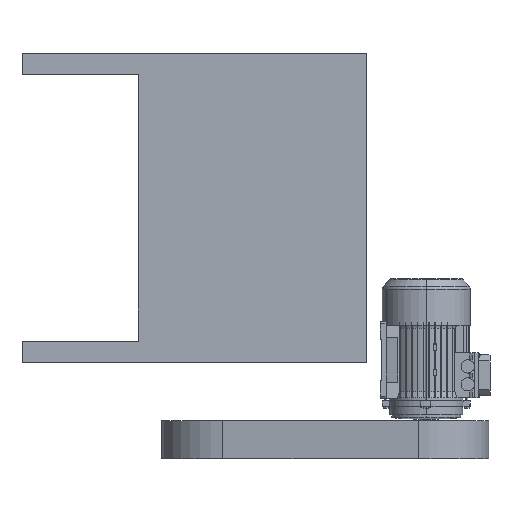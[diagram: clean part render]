
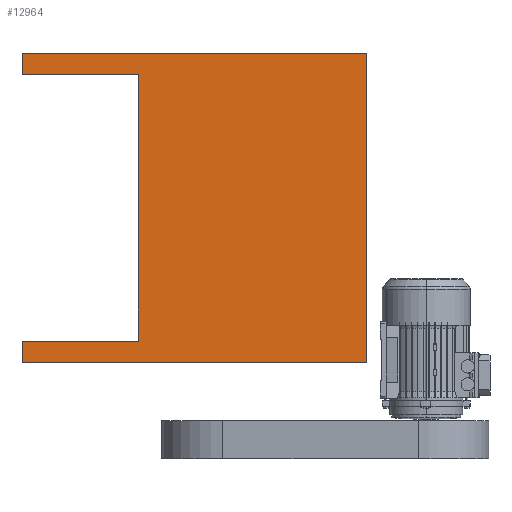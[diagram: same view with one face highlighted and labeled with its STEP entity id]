
A CAD part, front view. The second image highlights one B-rep face of the part: STEP entity #12964.
In plain terms, the highlighted planar face has unit normal (0, -1, 0).
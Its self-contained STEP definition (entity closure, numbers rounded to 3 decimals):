
#505 = EDGE_CURVE ( 'NONE', #14841, #10890, #14589, .T. ) ;
#1061 = EDGE_CURVE ( 'NONE', #22769, #31370, #19052, .T. ) ;
#1561 = AXIS2_PLACEMENT_3D ( 'NONE', #8421, #14819, #36326 ) ;
#1848 = EDGE_CURVE ( 'NONE', #22554, #18556, #15492, .T. ) ;
#1897 = ORIENTED_EDGE ( 'NONE', *, *, #5262, .F. ) ;
#2893 = CARTESIAN_POINT ( 'NONE',  ( -375.515, -176.895, 293. ) ) ;
#2925 = VECTOR ( 'NONE', #19974, 1000. ) ;
#2929 = DIRECTION ( 'NONE',  ( 0., 0., -1. ) ) ;
#4161 = CARTESIAN_POINT ( 'NONE',  ( -375.515, -176.895, 290. ) ) ;
#4630 = EDGE_CURVE ( 'NONE', #25163, #14841, #27607, .T. ) ;
#4903 = LINE ( 'NONE', #20214, #2925 ) ;
#5262 = EDGE_CURVE ( 'NONE', #11529, #22554, #4903, .T. ) ;
#6271 = ORIENTED_EDGE ( 'NONE', *, *, #8137, .T. ) ;
#7399 = DIRECTION ( 'NONE',  ( -1., 0., 0. ) ) ;
#7624 = ORIENTED_EDGE ( 'NONE', *, *, #23893, .T. ) ;
#7652 = CARTESIAN_POINT ( 'NONE',  ( -375.515, -176.895, -336. ) ) ;
#8137 = EDGE_CURVE ( 'NONE', #11529, #25163, #35659, .T. ) ;
#8421 = CARTESIAN_POINT ( 'NONE',  ( 0., -176.895, 293. ) ) ;
#10530 = VECTOR ( 'NONE', #11582, 1000. ) ;
#10890 = VERTEX_POINT ( 'NONE', #34456 ) ;
#11050 = CARTESIAN_POINT ( 'NONE',  ( -375.515, -176.895, 336. ) ) ;
#11529 = VERTEX_POINT ( 'NONE', #32424 ) ;
#11582 = DIRECTION ( 'NONE',  ( -1., 0., 0. ) ) ;
#11777 = CARTESIAN_POINT ( 'NONE',  ( -375.515, -176.895, -290. ) ) ;
#11819 = VECTOR ( 'NONE', #2929, 1000. ) ;
#12964 = ADVANCED_FACE ( 'NONE', ( #22150 ), #27309, .F. ) ;
#14201 = ORIENTED_EDGE ( 'NONE', *, *, #1061, .T. ) ;
#14530 = DIRECTION ( 'NONE',  ( 0., 0., -1. ) ) ;
#14589 = LINE ( 'NONE', #34810, #30174 ) ;
#14819 = DIRECTION ( 'NONE',  ( 0., 1., 0. ) ) ;
#14841 = VERTEX_POINT ( 'NONE', #4161 ) ;
#14919 = DIRECTION ( 'NONE',  ( 1., 0., 0. ) ) ;
#15075 = CARTESIAN_POINT ( 'NONE',  ( -375.515, -176.895, 336. ) ) ;
#15492 = LINE ( 'NONE', #7652, #31008 ) ;
#18556 = VERTEX_POINT ( 'NONE', #30800 ) ;
#19052 = LINE ( 'NONE', #11777, #10530 ) ;
#19974 = DIRECTION ( 'NONE',  ( 0., 0., -1. ) ) ;
#20214 = CARTESIAN_POINT ( 'NONE',  ( 374.485, -176.895, 293. ) ) ;
#20781 = ORIENTED_EDGE ( 'NONE', *, *, #32613, .T. ) ;
#20805 = CARTESIAN_POINT ( 'NONE',  ( 374.485, -176.895, -336. ) ) ;
#21922 = CARTESIAN_POINT ( 'NONE',  ( -122.515, -176.895, -290. ) ) ;
#22150 = FACE_OUTER_BOUND ( 'NONE', #25007, .T. ) ;
#22554 = VERTEX_POINT ( 'NONE', #20805 ) ;
#22769 = VERTEX_POINT ( 'NONE', #21922 ) ;
#23758 = VECTOR ( 'NONE', #32137, 1000. ) ;
#23893 = EDGE_CURVE ( 'NONE', #10890, #22769, #33425, .T. ) ;
#24595 = ORIENTED_EDGE ( 'NONE', *, *, #4630, .T. ) ;
#25007 = EDGE_LOOP ( 'NONE', ( #32008, #7624, #14201, #20781, #36416, #1897, #6271, #24595 ) ) ;
#25163 = VERTEX_POINT ( 'NONE', #15075 ) ;
#25463 = VECTOR ( 'NONE', #14530, 1000. ) ;
#27045 = CARTESIAN_POINT ( 'NONE',  ( -122.515, -176.895, -290. ) ) ;
#27309 = PLANE ( 'NONE',  #1561 ) ;
#27607 = LINE ( 'NONE', #2893, #11819 ) ;
#29135 = CARTESIAN_POINT ( 'NONE',  ( -375.515, -176.895, 293. ) ) ;
#29820 = DIRECTION ( 'NONE',  ( -1., 0., 0. ) ) ;
#30174 = VECTOR ( 'NONE', #14919, 1000. ) ;
#30800 = CARTESIAN_POINT ( 'NONE',  ( -375.515, -176.895, -336. ) ) ;
#31008 = VECTOR ( 'NONE', #7399, 1000. ) ;
#31370 = VERTEX_POINT ( 'NONE', #38842 ) ;
#32008 = ORIENTED_EDGE ( 'NONE', *, *, #505, .T. ) ;
#32137 = DIRECTION ( 'NONE',  ( 0., 0., -1. ) ) ;
#32424 = CARTESIAN_POINT ( 'NONE',  ( 374.485, -176.895, 336. ) ) ;
#32613 = EDGE_CURVE ( 'NONE', #31370, #18556, #33627, .T. ) ;
#33425 = LINE ( 'NONE', #27045, #25463 ) ;
#33627 = LINE ( 'NONE', #29135, #23758 ) ;
#34456 = CARTESIAN_POINT ( 'NONE',  ( -122.515, -176.895, 290. ) ) ;
#34810 = CARTESIAN_POINT ( 'NONE',  ( -375.515, -176.895, 290. ) ) ;
#35659 = LINE ( 'NONE', #11050, #36589 ) ;
#36326 = DIRECTION ( 'NONE',  ( 0., 0., 1. ) ) ;
#36416 = ORIENTED_EDGE ( 'NONE', *, *, #1848, .F. ) ;
#36589 = VECTOR ( 'NONE', #29820, 1000. ) ;
#38842 = CARTESIAN_POINT ( 'NONE',  ( -375.515, -176.895, -290. ) ) ;
